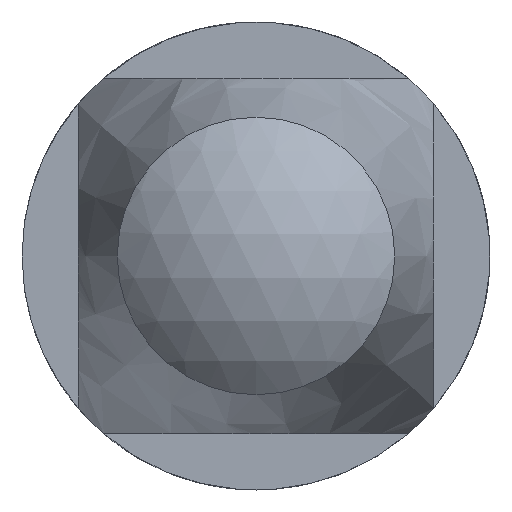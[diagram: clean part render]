
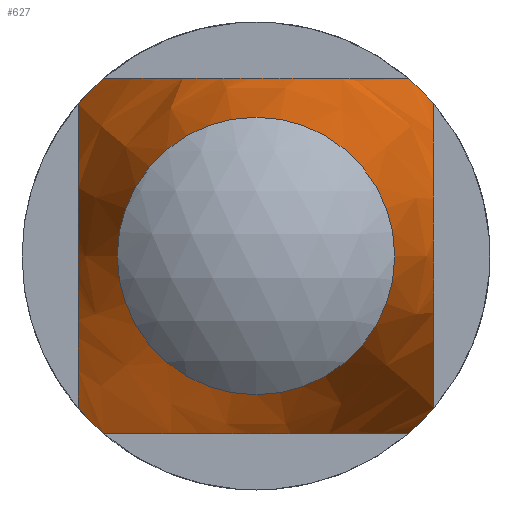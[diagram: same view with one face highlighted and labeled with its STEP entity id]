
A CAD part, front view. The second image highlights one B-rep face of the part: STEP entity #627.
In plain terms, the highlighted conical face has half-angle 15 degrees and reference radius 3.146 mm.
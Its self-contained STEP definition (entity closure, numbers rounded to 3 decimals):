
#20=(
BOUNDED_CURVE()
B_SPLINE_CURVE(2,(#1214,#1215,#1216),.UNSPECIFIED.,.F.,.F.)
B_SPLINE_CURVE_WITH_KNOTS((3,3),(0.,0.876),.UNSPECIFIED.)
CURVE()
GEOMETRIC_REPRESENTATION_ITEM()
RATIONAL_B_SPLINE_CURVE((1.,1.317,1.))
REPRESENTATION_ITEM('')
);
#21=(
BOUNDED_CURVE()
B_SPLINE_CURVE(2,(#1222,#1223,#1224),.UNSPECIFIED.,.F.,.F.)
B_SPLINE_CURVE_WITH_KNOTS((3,3),(0.,0.876),.UNSPECIFIED.)
CURVE()
GEOMETRIC_REPRESENTATION_ITEM()
RATIONAL_B_SPLINE_CURVE((1.,1.317,1.))
REPRESENTATION_ITEM('')
);
#22=(
BOUNDED_CURVE()
B_SPLINE_CURVE(2,(#1230,#1231,#1232),.UNSPECIFIED.,.F.,.F.)
B_SPLINE_CURVE_WITH_KNOTS((3,3),(0.,0.876),.UNSPECIFIED.)
CURVE()
GEOMETRIC_REPRESENTATION_ITEM()
RATIONAL_B_SPLINE_CURVE((1.,1.317,1.))
REPRESENTATION_ITEM('')
);
#23=(
BOUNDED_CURVE()
B_SPLINE_CURVE(2,(#1238,#1239,#1240),.UNSPECIFIED.,.F.,.F.)
B_SPLINE_CURVE_WITH_KNOTS((3,3),(0.,0.876),.UNSPECIFIED.)
CURVE()
GEOMETRIC_REPRESENTATION_ITEM()
RATIONAL_B_SPLINE_CURVE((1.,1.317,1.))
REPRESENTATION_ITEM('')
);
#171=FACE_BOUND('',#267,.T.);
#215=FACE_OUTER_BOUND('',#266,.T.);
#266=EDGE_LOOP('',(#580,#581,#582,#583,#584,#585,#586,#587));
#267=EDGE_LOOP('',(#588));
#283=CIRCLE('',#683,3.95);
#284=CIRCLE('',#684,3.95);
#285=CIRCLE('',#685,3.95);
#286=CIRCLE('',#686,3.95);
#288=CIRCLE('',#690,2.342);
#336=VERTEX_POINT('',#1211);
#337=VERTEX_POINT('',#1213);
#338=VERTEX_POINT('',#1219);
#339=VERTEX_POINT('',#1221);
#340=VERTEX_POINT('',#1227);
#341=VERTEX_POINT('',#1229);
#342=VERTEX_POINT('',#1235);
#343=VERTEX_POINT('',#1237);
#345=VERTEX_POINT('',#1251);
#410=EDGE_CURVE('',#337,#336,#20,.T.);
#413=EDGE_CURVE('',#339,#338,#21,.T.);
#416=EDGE_CURVE('',#341,#340,#22,.T.);
#419=EDGE_CURVE('',#343,#342,#23,.T.);
#421=EDGE_CURVE('',#337,#342,#283,.T.);
#422=EDGE_CURVE('',#343,#340,#284,.T.);
#423=EDGE_CURVE('',#341,#338,#285,.T.);
#424=EDGE_CURVE('',#339,#336,#286,.T.);
#426=EDGE_CURVE('',#345,#345,#288,.T.);
#580=ORIENTED_EDGE('',*,*,#410,.T.);
#581=ORIENTED_EDGE('',*,*,#424,.F.);
#582=ORIENTED_EDGE('',*,*,#413,.T.);
#583=ORIENTED_EDGE('',*,*,#423,.F.);
#584=ORIENTED_EDGE('',*,*,#416,.T.);
#585=ORIENTED_EDGE('',*,*,#422,.F.);
#586=ORIENTED_EDGE('',*,*,#419,.T.);
#587=ORIENTED_EDGE('',*,*,#421,.F.);
#588=ORIENTED_EDGE('',*,*,#426,.T.);
#590=CONICAL_SURFACE('',#691,3.146,15.);
#627=ADVANCED_FACE('',(#215,#171),#590,.T.);
#683=AXIS2_PLACEMENT_3D('',#1243,#841,#842);
#684=AXIS2_PLACEMENT_3D('',#1244,#843,#844);
#685=AXIS2_PLACEMENT_3D('',#1245,#845,#846);
#686=AXIS2_PLACEMENT_3D('',#1246,#847,#848);
#690=AXIS2_PLACEMENT_3D('',#1252,#855,#856);
#691=AXIS2_PLACEMENT_3D('',#1253,#857,#858);
#841=DIRECTION('center_axis',(0.,1.,0.));
#842=DIRECTION('ref_axis',(-1.,0.,0.));
#843=DIRECTION('center_axis',(0.,1.,0.));
#844=DIRECTION('ref_axis',(-1.,0.,0.));
#845=DIRECTION('center_axis',(0.,1.,0.));
#846=DIRECTION('ref_axis',(-1.,0.,0.));
#847=DIRECTION('center_axis',(0.,1.,0.));
#848=DIRECTION('ref_axis',(-1.,0.,0.));
#855=DIRECTION('center_axis',(0.,1.,0.));
#856=DIRECTION('ref_axis',(-1.,0.,0.));
#857=DIRECTION('center_axis',(0.,1.,0.));
#858=DIRECTION('ref_axis',(-1.,0.,0.));
#1211=CARTESIAN_POINT('',(-3.,-22.3,-2.57));
#1213=CARTESIAN_POINT('',(-3.,-22.3,2.57));
#1214=CARTESIAN_POINT('Ctrl Pts',(-3.,-22.3,2.57));
#1215=CARTESIAN_POINT('Ctrl Pts',(-3.,-28.538,0.));
#1216=CARTESIAN_POINT('Ctrl Pts',(-3.,-22.3,-2.57));
#1219=CARTESIAN_POINT('',(2.57,-22.3,-3.));
#1221=CARTESIAN_POINT('',(-2.57,-22.3,-3.));
#1222=CARTESIAN_POINT('Ctrl Pts',(-2.57,-22.3,-3.));
#1223=CARTESIAN_POINT('Ctrl Pts',(0.,-28.538,
-3.));
#1224=CARTESIAN_POINT('Ctrl Pts',(2.57,-22.3,-3.));
#1227=CARTESIAN_POINT('',(3.,-22.3,2.57));
#1229=CARTESIAN_POINT('',(3.,-22.3,-2.57));
#1230=CARTESIAN_POINT('Ctrl Pts',(3.,-22.3,-2.57));
#1231=CARTESIAN_POINT('Ctrl Pts',(3.,-28.538,0.));
#1232=CARTESIAN_POINT('Ctrl Pts',(3.,-22.3,2.57));
#1235=CARTESIAN_POINT('',(-2.57,-22.3,3.));
#1237=CARTESIAN_POINT('',(2.57,-22.3,3.));
#1238=CARTESIAN_POINT('Ctrl Pts',(2.57,-22.3,3.));
#1239=CARTESIAN_POINT('Ctrl Pts',(0.,-28.538,
3.));
#1240=CARTESIAN_POINT('Ctrl Pts',(-2.57,-22.3,3.));
#1243=CARTESIAN_POINT('Origin',(0.,-22.3,0.));
#1244=CARTESIAN_POINT('Origin',(0.,-22.3,0.));
#1245=CARTESIAN_POINT('Origin',(0.,-22.3,0.));
#1246=CARTESIAN_POINT('Origin',(0.,-22.3,0.));
#1251=CARTESIAN_POINT('',(-2.342,-28.3,0.));
#1252=CARTESIAN_POINT('Origin',(0.,-28.3,0.));
#1253=CARTESIAN_POINT('Origin',(0.,-25.3,0.));
